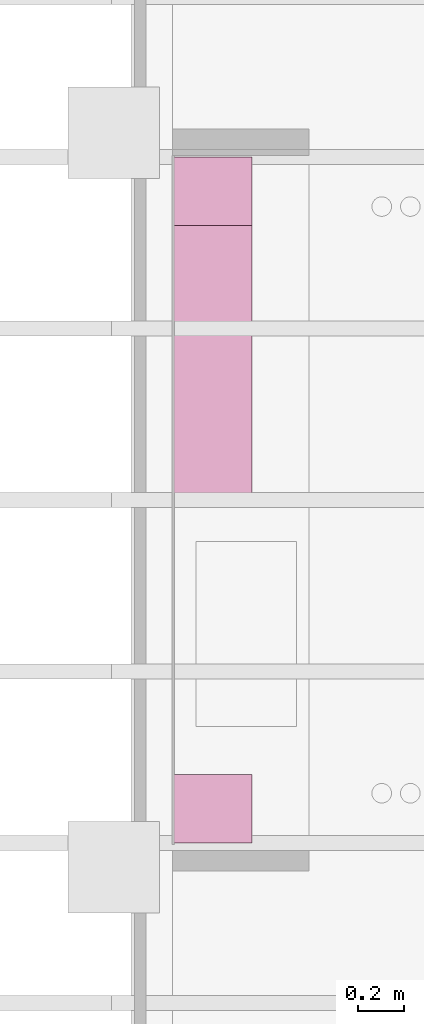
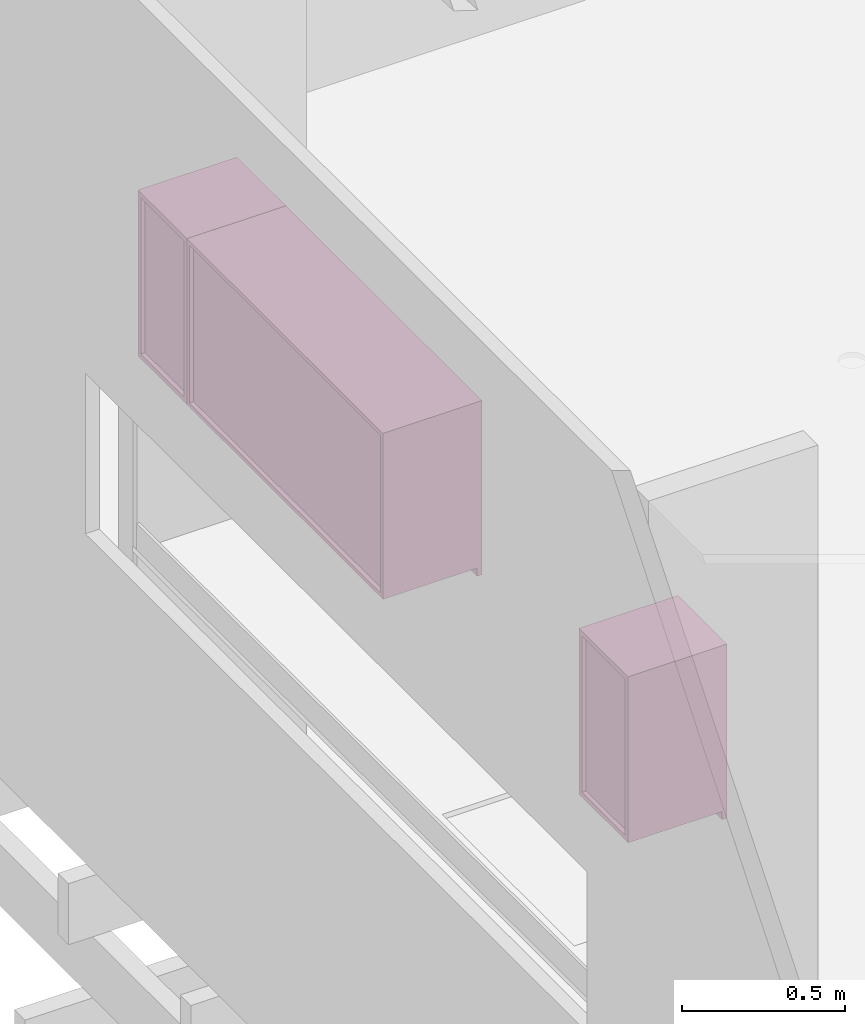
# One storey, part 5 of 5: 3 furnishings.
"""IFC2X3 building model written with IfcOpenShell, lengths in centimetres."""

from ifc_helpers import new_model, entity, si_unit, converted_unit, derived_unit, direction, frame, frame_2d, origin, origin_2d_with_axis, place, context, subcontext, project, spatial, rectangle, extrude, source, transform, mapped, material, material_list, type_object, type_shapes, element, save


model = new_model("IFC2X3")

# Units and contexts
model_context = context("Model", 3, precision=0.001, world=origin(), true_north=direction((6.123233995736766e-17, 1.0)))
body_context = subcontext(model_context, "Body", "Model", "MODEL_VIEW")
ifc_project = project(units=[si_unit("LENGTHUNIT", "METRE", prefix="CENTI"), si_unit("AREAUNIT", "SQUARE_METRE"), si_unit("VOLUMEUNIT", "CUBIC_METRE"), converted_unit("PLANEANGLEUNIT", "DEGREE", entity("IfcPlaneAngleMeasure", 0.017453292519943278), si_unit("PLANEANGLEUNIT", "RADIAN"), dimensions=[0, 0, 0, 0, 0, 0, 0]), si_unit("POWERUNIT", "WATT"), derived_unit("USERDEFINED", [(si_unit("MASSUNIT", "GRAM", prefix="KILO"), 1), (si_unit("TIMEUNIT", "SECOND"), -3)]), si_unit("FORCEUNIT", "NEWTON", prefix="KILO"), derived_unit("THERMALTRANSMITTANCEUNIT", [(si_unit("MASSUNIT", "GRAM", prefix="KILO"), 1), (si_unit("TIMEUNIT", "SECOND"), -3), (si_unit("THERMODYNAMICTEMPERATUREUNIT", "KELVIN"), -1)]), derived_unit("USERDEFINED", [(si_unit("MASSUNIT", "GRAM", prefix="KILO"), 1), (si_unit("THERMODYNAMICTEMPERATUREUNIT", "KELVIN"), -1), (si_unit("TIMEUNIT", "SECOND"), -2)]), derived_unit("THERMALRESISTANCEUNIT", [(si_unit("MASSUNIT", "GRAM", prefix="KILO"), -1), (si_unit("TIMEUNIT", "SECOND"), 3), (si_unit("THERMODYNAMICTEMPERATUREUNIT", "KELVIN"), 1)]), derived_unit("USERDEFINED", [(si_unit("MASSUNIT", "GRAM", prefix="KILO"), -1), (si_unit("TIMEUNIT", "SECOND"), 3), (si_unit("LENGTHUNIT", "METRE"), -2), (si_unit("LUMINOUSFLUXUNIT", "LUMEN"), 1)]), si_unit("LUMINOUSFLUXUNIT", "LUMEN")], contexts=[model_context])

# Site, building, storey
site_placement = place(None, origin())
site = spatial("IfcSite", under=ifc_project, at=site_placement, Name="Default", CompositionType="ELEMENT")
building_placement = place(site_placement, origin())
building = spatial("IfcBuilding", under=site, at=building_placement, Name="Workshop Hbaitáculo - Refugio Tierra del Fuego", CompositionType="ELEMENT")
storey_placement = place(building_placement, frame((0.0, 0.0, 100.0)))
storey = spatial("IfcBuildingStorey", under=building, at=storey_placement, Name="NOG_PISO 1", CompositionType="ELEMENT", Elevation=100.0)

# Furnishings
ifc_material_1 = material(Name="Melamina Puertas Mueble de Cocina")
ifc_material_2 = material(Name="Melamina Muebles Cocina")
ifc_material_list_1 = material_list([ifc_material_1, ifc_material_2])
furniture_type_1 = type_object("IfcFurnitureType", Name="GDV_FAM_M04c_Aereo doble logia:GDV_FAM_M04c_Aereo doble logia", AssemblyPlace="NOTDEFINED", material=ifc_material_list_1)
shared_shape_1 = source(origin(), body_context, "Body", "SweptSolid", [
    extrude(rectangle(XDim=1.7999999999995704, YDim=60.0, at=frame_2d((3.3861802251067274e-15, 0.0), x_axis=(1.0, 0.0))), frame((90.0, 34.09999999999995, 0.0), z_axis=(0.0, 0.0, 1.0), x_axis=(0.0, 1.0, 0.0)), (0.0, 0.0, 1.0), 65.00000000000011),
    extrude(rectangle(XDim=27.18293545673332, YDim=117.00000000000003, at=frame_2d((0.0, 7.105427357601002e-15), x_axis=(1.0, 0.0))), frame((60.0, 16.59146772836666, 33.250000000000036), z_axis=(0.0, 0.0, 1.0), x_axis=(0.0, 1.0, 0.0)), (0.0, 0.0, 1.0), 1.4999999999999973),
    extrude(rectangle(XDim=1.7999999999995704, YDim=60.0, at=frame_2d((3.3861802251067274e-15, 0.0), x_axis=(1.0, 0.0))), frame((30.0, 34.09999999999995, 0.0), z_axis=(0.0, 0.0, 1.0), x_axis=(0.0, 1.0, 0.0)), (0.0, 0.0, 1.0), 65.00000000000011),
    extrude(rectangle(XDim=33.199999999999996, YDim=117.00000000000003, at=frame_2d((0.0, 7.105427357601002e-15), x_axis=(1.0, 0.0))), frame((60.0, 16.599999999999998, 63.500000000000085), z_axis=(0.0, 0.0, 1.0), x_axis=(0.0, 1.0, 0.0)), (0.0, 0.0, 1.0), 1.5000000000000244),
    extrude(rectangle(XDim=1.4999999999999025, YDim=117.00000000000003, at=frame_2d((0.0, 7.105427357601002e-15), x_axis=(1.0, 0.0))), frame((60.0, 2.2500000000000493, 4.500000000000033), z_axis=(0.0, 0.0, 1.0), x_axis=(0.0, 1.0, 0.0)), (0.0, 0.0, 1.0), 59.00000000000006),
    extrude(rectangle(XDim=1.5000000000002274, YDim=33.199999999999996, at=frame_2d((-1.354472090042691e-14, 0.0), x_axis=(1.0, 0.0))), frame((119.25000000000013, 16.599999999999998, 3.0), z_axis=(0.0, 0.0, 1.0), x_axis=(-1.0, 0.0, 0.0)), (0.0, 0.0, 1.0), 61.99999999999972),
    extrude(rectangle(XDim=1.5, YDim=33.199999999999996, at=origin_2d_with_axis()), frame((0.75, 16.599999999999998, 3.0), z_axis=(0.0, 0.0, 1.0), x_axis=(-1.0, 0.0, 0.0)), (0.0, 0.0, 1.0), 61.99999999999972),
    extrude(rectangle(XDim=33.200000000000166, YDim=117.00000000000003, at=frame_2d((0.0, 7.105427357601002e-15), x_axis=(1.0, 0.0))), frame((60.0, 16.600000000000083, 3.0), z_axis=(0.0, 0.0, 1.0), x_axis=(0.0, 1.0, 0.0)), (0.0, 0.0, 1.0), 1.499999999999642),
])
type_shapes(furniture_type_1, [shared_shape_1])
furnishing_1_placement = place(storey_placement, frame((11.399999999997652, -21.0, 183.0), z_axis=(0.0, 0.0, 1.0), x_axis=(0.0, -1.0, 0.0)))
element("IfcFurnishingElement", 1, at=furnishing_1_placement, inside=storey, type_object=furniture_type_1, material=ifc_material_list_1, Name="GDV_FAM_M04c_Aereo doble logia:GDV_FAM_M04c_Aereo doble logia", ObjectType="GDV_FAM_M04c_Aereo doble logia:GDV_FAM_M04c_Aereo doble logia", context=body_context, shape_type="MappedRepresentation", body=[
    mapped(shared_shape_1, transform((0.0, 0.0, 0.0), scale=1.0)),
])
ifc_material_list_2 = material_list([ifc_material_2, ifc_material_1])
furniture_type_2 = type_object("IfcFurnitureType", Name="GDV_FAM_M04c_Aereo logia:GDV_FAM_M04c_Aereo logia", AssemblyPlace="NOTDEFINED", material=ifc_material_list_2)
shared_shape_2 = source(origin(), body_context, "Body", "SweptSolid", [
    extrude(rectangle(XDim=26.4000000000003, YDim=26.882935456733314, at=frame_2d((8.881784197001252e-16, 1.7763568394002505e-15), x_axis=(1.0, 0.0))), frame((15.0, -16.74146772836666, 33.09999999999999), z_axis=(0.0, 0.0, 1.0), x_axis=(-1.0, 0.0, 0.0)), (0.0, 0.0, 1.0), 1.799999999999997),
    extrude(rectangle(XDim=30.000000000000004, YDim=1.7999999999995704, at=frame_2d((0.0, 3.3861802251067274e-15), x_axis=(1.0, 0.0))), frame((15.0, -34.09999999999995, 0.0), z_axis=(0.0, 0.0, 1.0), x_axis=(-1.0, 0.0, 0.0)), (0.0, 0.0, 1.0), 65.00000000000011),
    extrude(rectangle(XDim=26.400000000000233, YDim=33.199999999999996, at=origin_2d_with_axis()), frame((15.0, -16.599999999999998, 63.20000000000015), z_axis=(0.0, 0.0, 1.0), x_axis=(-1.0, 0.0, 0.0)), (0.0, 0.0, 1.0), 1.7999999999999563),
    extrude(rectangle(XDim=26.400000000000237, YDim=1.800000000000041, at=origin_2d_with_axis()), frame((15.0, -2.4000000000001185, 4.800000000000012), z_axis=(0.0, 0.0, 1.0), x_axis=(-1.0, 0.0, 0.0)), (0.0, 0.0, 1.0), 58.40000000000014),
    extrude(rectangle(XDim=33.199999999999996, YDim=1.7999999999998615, at=origin_2d_with_axis()), frame((29.100000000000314, -16.599999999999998, 3.0), z_axis=(0.0, 0.0, 1.0), x_axis=(0.0, 1.0, 0.0)), (0.0, 0.0, 1.0), 61.99999999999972),
    extrude(rectangle(XDim=33.199999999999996, YDim=1.8000000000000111, at=origin_2d_with_axis()), frame((0.9000000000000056, -16.599999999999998, 3.0), z_axis=(0.0, 0.0, 1.0), x_axis=(0.0, 1.0, 0.0)), (0.0, 0.0, 1.0), 62.000000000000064),
    extrude(rectangle(XDim=26.40000000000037, YDim=33.200000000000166, at=origin_2d_with_axis()), frame((15.0, -16.600000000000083, 3.0), z_axis=(0.0, 0.0, 1.0), x_axis=(-1.0, 0.0, 0.0)), (0.0, 0.0, 1.0), 1.7999999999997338),
])
type_shapes(furniture_type_2, [shared_shape_2])
furnishing_2_placement = place(storey_placement, frame((11.399999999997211, -291.0, 183.0), z_axis=(0.0, 0.0, 1.0), x_axis=(0.0, 1.0, 0.0)))
element("IfcFurnishingElement", 2, at=furnishing_2_placement, inside=storey, type_object=furniture_type_2, material=ifc_material_list_2, Name="GDV_FAM_M04c_Aereo logia:GDV_FAM_M04c_Aereo logia", ObjectType="GDV_FAM_M04c_Aereo logia:GDV_FAM_M04c_Aereo logia", context=body_context, shape_type="MappedRepresentation", body=[
    mapped(shared_shape_2, transform((0.0, 0.0, 0.0), scale=1.0)),
])
furniture_type_3 = type_object("IfcFurnitureType", Name="GDV_FAM_M04c_Aereo logia:GDV_FAM_M04c_Aereo logia", AssemblyPlace="NOTDEFINED", material=ifc_material_list_2)
shared_shape_3 = source(origin(), body_context, "Body", "SweptSolid", [
    extrude(rectangle(XDim=26.882935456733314, YDim=26.400000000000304, at=frame_2d((1.7763568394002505e-15, -1.7763568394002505e-15), x_axis=(1.0, 0.0))), frame((15.0, 16.74146772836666, 33.09999999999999), z_axis=(0.0, 0.0, 1.0), x_axis=(0.0, 1.0, 0.0)), (0.0, 0.0, 1.0), 1.799999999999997),
    extrude(rectangle(XDim=1.7999999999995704, YDim=30.000000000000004, at=frame_2d((3.3861802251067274e-15, 0.0), x_axis=(1.0, 0.0))), frame((15.0, 34.09999999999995, 0.0), z_axis=(0.0, 0.0, 1.0), x_axis=(0.0, 1.0, 0.0)), (0.0, 0.0, 1.0), 65.00000000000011),
    extrude(rectangle(XDim=33.199999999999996, YDim=26.400000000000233, at=frame_2d((0.0, -1.7763568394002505e-15), x_axis=(1.0, 0.0))), frame((15.0, 16.599999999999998, 63.20000000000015), z_axis=(0.0, 0.0, 1.0), x_axis=(0.0, 1.0, 0.0)), (0.0, 0.0, 1.0), 1.7999999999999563),
    extrude(rectangle(XDim=1.800000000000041, YDim=26.400000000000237, at=origin_2d_with_axis()), frame((15.0, 2.4000000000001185, 4.800000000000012), z_axis=(0.0, 0.0, 1.0), x_axis=(0.0, 1.0, 0.0)), (0.0, 0.0, 1.0), 58.40000000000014),
    extrude(rectangle(XDim=1.7999999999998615, YDim=33.199999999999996, at=origin_2d_with_axis()), frame((29.100000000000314, 16.599999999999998, 3.0), z_axis=(0.0, 0.0, 1.0), x_axis=(-1.0, 0.0, 0.0)), (0.0, 0.0, 1.0), 61.99999999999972),
    extrude(rectangle(XDim=1.8000000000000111, YDim=33.199999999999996, at=origin_2d_with_axis()), frame((0.9000000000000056, 16.599999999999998, 3.0), z_axis=(0.0, 0.0, 1.0), x_axis=(-1.0, 0.0, 0.0)), (0.0, 0.0, 1.0), 62.000000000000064),
    extrude(rectangle(XDim=33.200000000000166, YDim=26.40000000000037, at=origin_2d_with_axis()), frame((15.0, 16.600000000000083, 3.0), z_axis=(0.0, 0.0, 1.0), x_axis=(0.0, 1.0, 0.0)), (0.0, 0.0, 1.0), 1.7999999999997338),
])
type_shapes(furniture_type_3, [shared_shape_3])
furnishing_3_placement = place(storey_placement, frame((11.399999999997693, 9.0, 183.0), z_axis=(0.0, 0.0, 1.0), x_axis=(0.0, -1.0, 0.0)))
element("IfcFurnishingElement", 3, at=furnishing_3_placement, inside=storey, type_object=furniture_type_3, material=ifc_material_list_2, Name="GDV_FAM_M04c_Aereo logia:GDV_FAM_M04c_Aereo logia", ObjectType="GDV_FAM_M04c_Aereo logia:GDV_FAM_M04c_Aereo logia", context=body_context, shape_type="MappedRepresentation", body=[
    mapped(shared_shape_3, transform((0.0, 0.0, 0.0), scale=1.0)),
])

save(model, "model.ifc")
